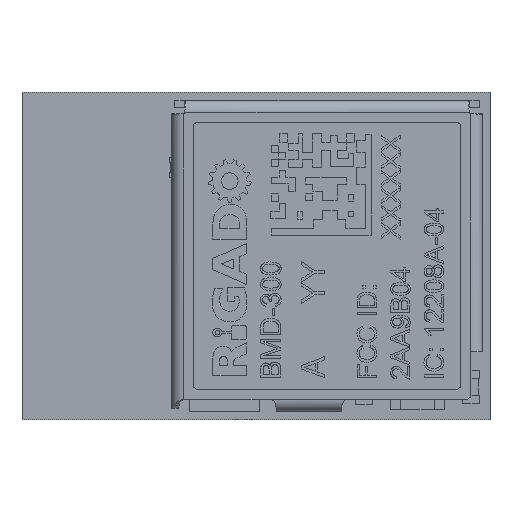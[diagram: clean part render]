
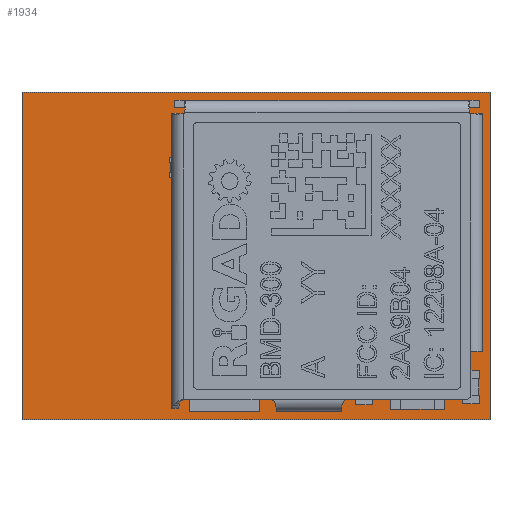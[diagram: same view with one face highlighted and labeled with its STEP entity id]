
A CAD part, top view. The second image highlights one B-rep face of the part: STEP entity #1934.
In plain terms, the highlighted planar face has unit normal (0, 0, 1).
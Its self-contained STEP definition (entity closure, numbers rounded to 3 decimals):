
#966 = CARTESIAN_POINT ( 'NONE',  ( 139.925, 115.325, 0.562 ) ) ;
#1934 = ADVANCED_FACE ( 'NONE', ( #50151 ), #13226, .F. ) ;
#2028 = LINE ( 'NONE', #29154, #18048 ) ;
#3718 = CARTESIAN_POINT ( 'NONE',  ( 0., 0., 0.562 ) ) ;
#3867 = CARTESIAN_POINT ( 'NONE',  ( 125.925, 115.325, 0.562 ) ) ;
#4962 = EDGE_CURVE ( 'NONE', #18331, #22716, #51555, .T. ) ;
#7299 = VECTOR ( 'NONE', #36216, 1000. ) ;
#9254 = DIRECTION ( 'NONE',  ( 0., -1., 0. ) ) ;
#13226 = PLANE ( 'NONE',  #49795 ) ;
#15102 = DIRECTION ( 'NONE',  ( 1., 0., 0. ) ) ;
#17872 = CARTESIAN_POINT ( 'NONE',  ( 139.925, 105.525, 0.562 ) ) ;
#18048 = VECTOR ( 'NONE', #23121, 1000. ) ;
#18331 = VERTEX_POINT ( 'NONE', #3867 ) ;
#21385 = VECTOR ( 'NONE', #15102, 1000. ) ;
#22716 = VERTEX_POINT ( 'NONE', #966 ) ;
#23121 = DIRECTION ( 'NONE',  ( 0., 1., 0. ) ) ;
#23177 = EDGE_CURVE ( 'NONE', #59432, #64230, #69528, .T. ) ;
#23199 = EDGE_LOOP ( 'NONE', ( #25523, #50145, #55886, #39639 ) ) ;
#25523 = ORIENTED_EDGE ( 'NONE', *, *, #43170, .F. ) ;
#29154 = CARTESIAN_POINT ( 'NONE',  ( 125.925, 105.525, 0.562 ) ) ;
#30123 = CARTESIAN_POINT ( 'NONE',  ( 139.925, 105.525, 0.562 ) ) ;
#33099 = CARTESIAN_POINT ( 'NONE',  ( 125.925, 115.325, 0.562 ) ) ;
#36216 = DIRECTION ( 'NONE',  ( -1., 0., 0. ) ) ;
#39639 = ORIENTED_EDGE ( 'NONE', *, *, #23177, .F. ) ;
#39816 = DIRECTION ( 'NONE',  ( 0., 0., -1. ) ) ;
#43170 = EDGE_CURVE ( 'NONE', #22716, #59432, #55125, .T. ) ;
#45856 = DIRECTION ( 'NONE',  ( -1., 0., 0. ) ) ;
#46435 = CARTESIAN_POINT ( 'NONE',  ( 125.925, 105.525, 0.562 ) ) ;
#49795 = AXIS2_PLACEMENT_3D ( 'NONE', #3718, #39816, #45856 ) ;
#50145 = ORIENTED_EDGE ( 'NONE', *, *, #4962, .F. ) ;
#50151 = FACE_OUTER_BOUND ( 'NONE', #23199, .T. ) ;
#51555 = LINE ( 'NONE', #33099, #21385 ) ;
#54032 = EDGE_CURVE ( 'NONE', #64230, #18331, #2028, .T. ) ;
#55125 = LINE ( 'NONE', #57522, #69228 ) ;
#55886 = ORIENTED_EDGE ( 'NONE', *, *, #54032, .F. ) ;
#57522 = CARTESIAN_POINT ( 'NONE',  ( 139.925, 115.325, 0.562 ) ) ;
#59432 = VERTEX_POINT ( 'NONE', #17872 ) ;
#64230 = VERTEX_POINT ( 'NONE', #46435 ) ;
#69228 = VECTOR ( 'NONE', #9254, 1000. ) ;
#69528 = LINE ( 'NONE', #30123, #7299 ) ;
